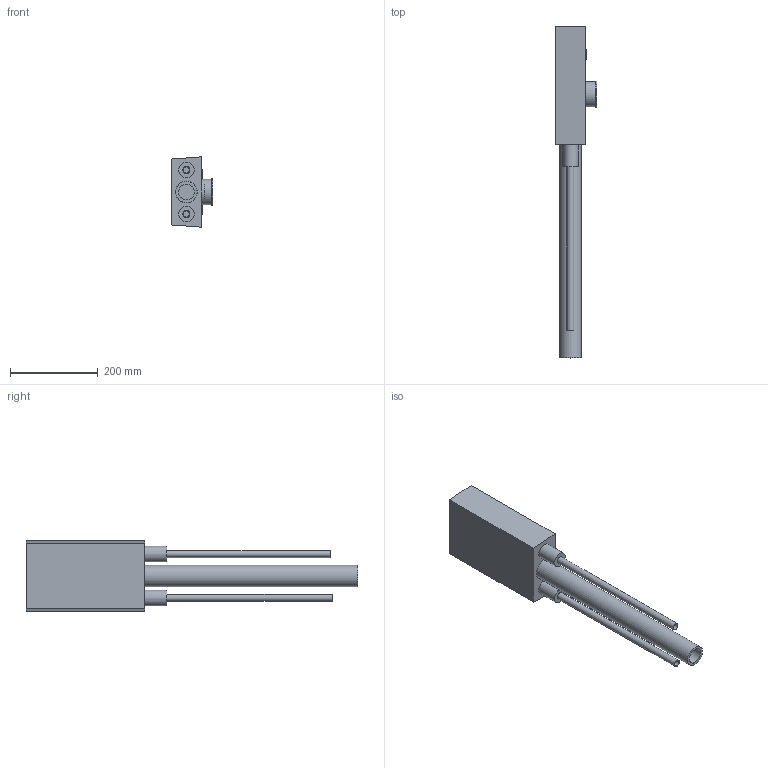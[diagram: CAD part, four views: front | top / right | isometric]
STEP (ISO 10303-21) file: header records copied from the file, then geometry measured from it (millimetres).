
FILE_DESCRIPTION(/* description */ (''),/* implementation_level */ '2;1');
FILE_NAME(/* name */ '\\LG50011\SANHA_Legnica\Engineering\Public\PROJEKTY\SANHA-BOX_Support_BiR\002-Rysunki_Boxów\25-WT-M\Zespół-25-WT-M.stp',/* time_stamp */ '2018-11-05T14:34:29+01:00',/* author */ ('gomulka'),/* organization */ (''),/* preprocessor_version */ 'ST-DEVELOPER v16.13',/* originating_system */ 'Autodesk Inventor 2018',/* authorisation */ '');
FILE_SCHEMA (('AUTOMOTIVE_DESIGN { 1 0 10303 214 3 1 1 }'));
Length unit declared in the file: millimetre
Products named in the file (5): Zespół-25-WT-M; 325WTM16; Rura_50; Rura_16x2; Kolano_DN50-OD50_Master3
Assembly tree (5 placements, depth 2):
  Zespół-25-WT-M
    325WTM16
    Rura_50
    Rura_16x2  x2
    Kolano_DN50-OD50_Master3
Bounding box: 95.21 x 755 x 160 mm (x, y, z)
Volume: 3422835.7 mm3; surface area: 427036.6 mm2
Topology: 5 solids, 5 shells, 128 faces, 289 edges, 192 vertices
Faces by surface type: plane 87, cylinder 22, bspline 16, cone 3
Full cylindrical faces by diameter (mm): 14 x2, 16 x4, 18.631 x2, 21 x2, 30 x1, 35 x2, 35.993 x1, 48.5 x1, 50 x1, 52.269 x1, 54 x1, 55 x2, 58 x1, 60 x1
Entity records: 3657 total; most frequent: CARTESIAN_POINT 786, ORIENTED_EDGE 516, DIRECTION 504, EDGE_CURVE 258, VERTEX_POINT 186, LINE 184, VECTOR 184, EDGE_LOOP 174
